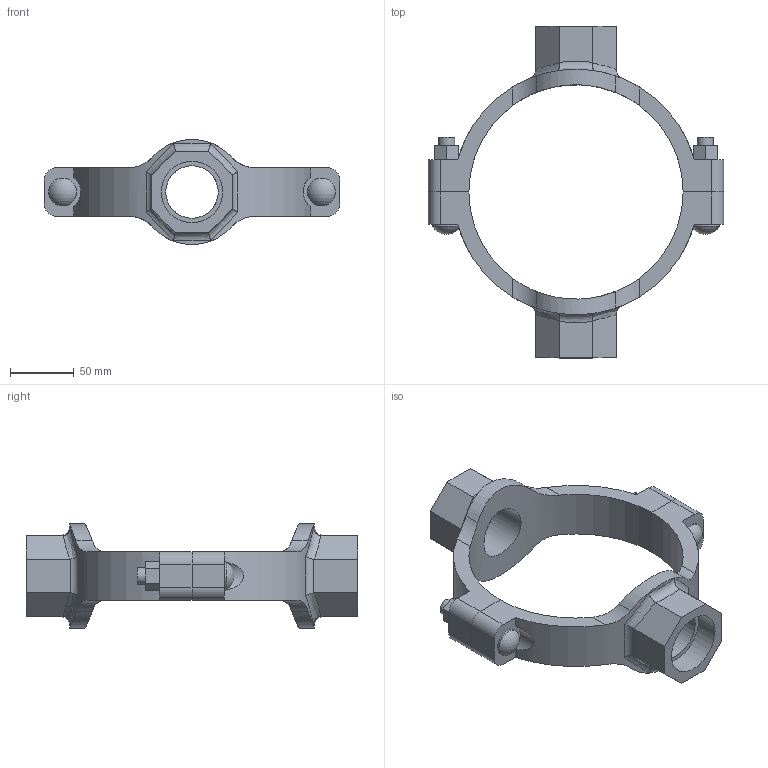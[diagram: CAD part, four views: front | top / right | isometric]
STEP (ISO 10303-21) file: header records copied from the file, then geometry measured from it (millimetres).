
FILE_DESCRIPTION(/* description */ ('VIC MECH-T BRANCH OUTLET CROSS STYLE 920N (THD)','CAx-IF Rec.Pracs.---Representation and Presentation of Product Manufacturing Information (PMI)---4.0---2014-10-13'),/* implementation_level */ '2;1');
FILE_NAME(/* name */ 'C:\Users\Vjadhav\AppData\Roaming\Autodesk\ApplicationPlugins\Back Up\Victaulic_IPS_Mechanical-Cross Outlet_Style 920N (FPT)\Victaulic_IPS_Mechanical-Cross Outlet_06.0x01.5x01.5 (150x40x40).stp',/* time_stamp */ '2020-08-06T18:59:32+05:00',/* author */ ('Vjadhav'),/* organization */ ('Victaulic'),/* preprocessor_version */ 'ST-DEVELOPER v17.2',/* originating_system */ 'Autodesk Inventor 2019',/* authorisation */ '');
FILE_SCHEMA (('AP242_MANAGED_MODEL_BASED_3D_ENGINEERING_MIM_LF { 1 0 10303 442 1 1 4 }'));
Length unit declared in the file: inch
Products named in the file (3): 920NT-06.0x01.5x01.5; 920NT-06.0x01.5; 920NT-06.0x01.5_1
Assembly tree (2 placements, depth 2):
  920NT-06.0x01.5x01.5
    920NT-06.0x01.5
    920NT-06.0x01.5_1
Bounding box: 231.9 x 260.6 x 82.42 mm (x, y, z)
Volume: 492772.9 mm3; surface area: 113855.5 mm2
Topology: 2 solids, 2 shells, 132 faces, 350 edges, 236 vertices
Faces by surface type: plane 68, cylinder 50, bspline 8, torus 4, sphere 2
Full cylindrical faces by diameter (mm): 12.7 x4, 21.982 x2, 41.275 x2, 48.26 x2
Entity records: 5218 total; most frequent: CARTESIAN_POINT 1705, ORIENTED_EDGE 700, DIRECTION 648, EDGE_CURVE 350, VERTEX_POINT 236, AXIS2_PLACEMENT_3D 231, LINE 186, VECTOR 186
